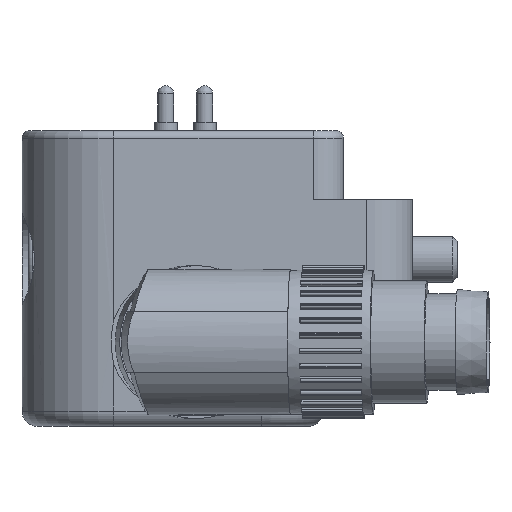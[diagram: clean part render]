
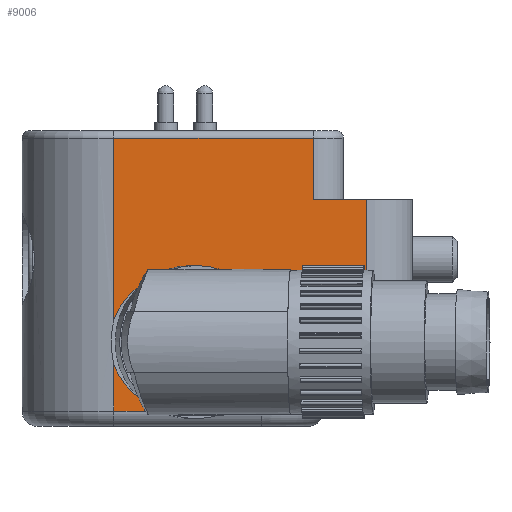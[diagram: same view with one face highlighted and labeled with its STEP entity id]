
A CAD part, left-side view. The second image highlights one B-rep face of the part: STEP entity #9006.
In plain terms, the highlighted planar face has unit normal (-1, 0, 0).
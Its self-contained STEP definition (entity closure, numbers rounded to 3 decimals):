
#597=LINE('',#14329,#1228);
#602=LINE('',#14357,#1233);
#609=LINE('',#14404,#1240);
#618=LINE('',#14422,#1249);
#619=LINE('',#14426,#1250);
#620=LINE('',#14431,#1251);
#621=LINE('',#14433,#1252);
#622=LINE('',#14435,#1253);
#623=LINE('',#14436,#1254);
#1228=VECTOR('',#11169,10.);
#1233=VECTOR('',#11206,4.);
#1240=VECTOR('',#11261,10.);
#1249=VECTOR('',#11274,10.);
#1250=VECTOR('',#11279,10.);
#1251=VECTOR('',#11284,10.);
#1252=VECTOR('',#11285,10.);
#1253=VECTOR('',#11286,3.);
#1254=VECTOR('',#11287,10.);
#1872=FACE_OUTER_BOUND('',#2432,.T.);
#2432=EDGE_LOOP('',(#6189,#6190,#6191,#6192,#6193,#6194,#6195,#6196,#6197,
#6198,#6199));
#3050=CIRCLE('',#9727,4.4);
#3051=CIRCLE('',#9728,4.4);
#3632=VERTEX_POINT('',#14313);
#3636=VERTEX_POINT('',#14327);
#3643=VERTEX_POINT('',#14355);
#3644=VERTEX_POINT('',#14359);
#3659=VERTEX_POINT('',#14399);
#3666=VERTEX_POINT('',#14421);
#3667=VERTEX_POINT('',#14425);
#3668=VERTEX_POINT('',#14427);
#3669=VERTEX_POINT('',#14429);
#3670=VERTEX_POINT('',#14432);
#3671=VERTEX_POINT('',#14434);
#4576=EDGE_CURVE('',#3636,#3632,#597,.T.);
#4590=EDGE_CURVE('',#3643,#3636,#602,.T.);
#4613=EDGE_CURVE('',#3644,#3659,#609,.T.);
#4622=EDGE_CURVE('',#3659,#3666,#618,.T.);
#4624=EDGE_CURVE('',#3667,#3644,#619,.T.);
#4625=EDGE_CURVE('',#3668,#3667,#3050,.T.);
#4626=EDGE_CURVE('',#3669,#3668,#3051,.T.);
#4627=EDGE_CURVE('',#3632,#3669,#620,.T.);
#4628=EDGE_CURVE('',#3643,#3670,#621,.T.);
#4629=EDGE_CURVE('',#3671,#3670,#622,.T.);
#4630=EDGE_CURVE('',#3671,#3666,#623,.T.);
#6189=ORIENTED_EDGE('',*,*,#4613,.F.);
#6190=ORIENTED_EDGE('',*,*,#4624,.F.);
#6191=ORIENTED_EDGE('',*,*,#4625,.F.);
#6192=ORIENTED_EDGE('',*,*,#4626,.F.);
#6193=ORIENTED_EDGE('',*,*,#4627,.F.);
#6194=ORIENTED_EDGE('',*,*,#4576,.F.);
#6195=ORIENTED_EDGE('',*,*,#4590,.F.);
#6196=ORIENTED_EDGE('',*,*,#4628,.T.);
#6197=ORIENTED_EDGE('',*,*,#4629,.F.);
#6198=ORIENTED_EDGE('',*,*,#4630,.T.);
#6199=ORIENTED_EDGE('',*,*,#4622,.F.);
#8128=PLANE('',#9726);
#9006=ADVANCED_FACE('',(#1872),#8128,.T.);
#9726=AXIS2_PLACEMENT_3D('',#14424,#11277,#11278);
#9727=AXIS2_PLACEMENT_3D('',#14428,#11280,#11281);
#9728=AXIS2_PLACEMENT_3D('',#14430,#11282,#11283);
#11169=DIRECTION('',(0.,1.,0.));
#11206=DIRECTION('',(0.,0.,-1.));
#11261=DIRECTION('',(0.,-1.,0.));
#11274=DIRECTION('',(0.,0.,-1.));
#11277=DIRECTION('center_axis',(-1.,0.,0.));
#11278=DIRECTION('ref_axis',(0.,0.,
1.));
#11279=DIRECTION('',(0.,0.,1.));
#11280=DIRECTION('center_axis',(-1.,0.,0.));
#11281=DIRECTION('ref_axis',(0.,0.,
-1.));
#11282=DIRECTION('center_axis',(-1.,0.,0.));
#11283=DIRECTION('ref_axis',(0.,0.,
-1.));
#11284=DIRECTION('',(0.,0.,1.));
#11285=DIRECTION('',(0.,-1.,0.));
#11286=DIRECTION('',(0.,0.,-1.));
#11287=DIRECTION('',(0.,1.,0.));
#14313=CARTESIAN_POINT('',(-19.,0.65,-4.5));
#14327=CARTESIAN_POINT('',(-19.,-8.999,-4.5));
#14329=CARTESIAN_POINT('',(-19.,-9.1,-4.5));
#14355=CARTESIAN_POINT('',(-19.,-8.999,0.));
#14357=CARTESIAN_POINT('',(-19.,-8.999,-5.5));
#14359=CARTESIAN_POINT('',(-19.,0.65,13.3));
#14399=CARTESIAN_POINT('',(-19.,-12.35,13.3));
#14404=CARTESIAN_POINT('',(-19.,-12.475,13.3));
#14421=CARTESIAN_POINT('',(-19.,-12.35,9.3));
#14422=CARTESIAN_POINT('',(-19.,-12.35,0.));
#14424=CARTESIAN_POINT('Origin',(-19.,-18.85,0.));
#14425=CARTESIAN_POINT('',(-19.,0.65,1.462));
#14426=CARTESIAN_POINT('',(-19.,0.65,0.));
#14427=CARTESIAN_POINT('',(-19.,-3.5,4.4));
#14428=CARTESIAN_POINT('Origin',(-19.,-3.5,0.));
#14429=CARTESIAN_POINT('',(-19.,0.65,-1.462));
#14430=CARTESIAN_POINT('Origin',(-19.,-3.5,0.));
#14431=CARTESIAN_POINT('',(-19.,0.65,-5.5));
#14432=CARTESIAN_POINT('',(-19.,-15.85,0.));
#14433=CARTESIAN_POINT('',(-19.,6.65,0.));
#14434=CARTESIAN_POINT('',(-19.,-15.85,9.3));
#14435=CARTESIAN_POINT('',(-19.,-15.85,0.));
#14436=CARTESIAN_POINT('',(-19.,-18.002,9.3));
